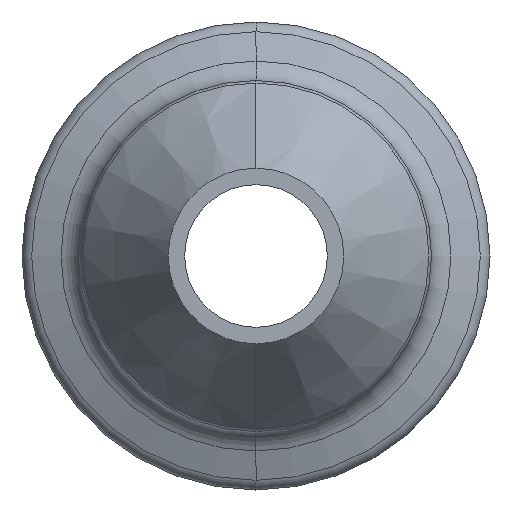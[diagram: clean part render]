
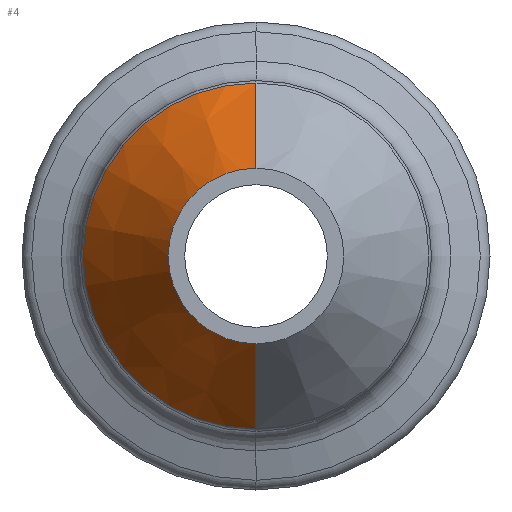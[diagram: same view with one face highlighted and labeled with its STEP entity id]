
A CAD part, left-side view. The second image highlights one B-rep face of the part: STEP entity #4.
In plain terms, the highlighted conical face has half-angle 35 degrees and reference radius 4.763 mm.
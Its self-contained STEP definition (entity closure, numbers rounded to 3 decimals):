
#4 = ADVANCED_FACE ( 'NONE', ( #589 ), #445, .T. ) ;
#7 = CARTESIAN_POINT ( 'NONE',  ( 31.998, 0., 9.383 ) ) ;
#27 = CARTESIAN_POINT ( 'NONE',  ( 31.998, 0., -9.383 ) ) ;
#29 = LINE ( 'NONE', #797, #1001 ) ;
#86 = EDGE_LOOP ( 'NONE', ( #668, #635, #646, #399 ) ) ;
#94 = DIRECTION ( 'NONE',  ( 0., 0., -1. ) ) ;
#211 = EDGE_CURVE ( 'NONE', #651, #420, #363, .T. ) ;
#260 = CIRCLE ( 'NONE', #959, 9.383 ) ;
#273 = EDGE_CURVE ( 'NONE', #365, #423, #260, .T. ) ;
#276 = DIRECTION ( 'NONE',  ( 1., 0., 0. ) ) ;
#297 = CARTESIAN_POINT ( 'NONE',  ( 25.4, 0., 4.763 ) ) ;
#313 = DIRECTION ( 'NONE',  ( 0.819, 0., 0.574 ) ) ;
#330 = CARTESIAN_POINT ( 'NONE',  ( 25.4, 0., 0. ) ) ;
#346 = DIRECTION ( 'NONE',  ( 0., 0., 1. ) ) ;
#350 = DIRECTION ( 'NONE',  ( -1., 0., 0. ) ) ;
#351 = CARTESIAN_POINT ( 'NONE',  ( 31.998, 0., 0. ) ) ;
#363 = CIRCLE ( 'NONE', #670, 4.763 ) ;
#365 = VERTEX_POINT ( 'NONE', #7 ) ;
#375 = CARTESIAN_POINT ( 'NONE',  ( 25.4, 0., 4.763 ) ) ;
#386 = VECTOR ( 'NONE', #313, 1000. ) ;
#399 = ORIENTED_EDGE ( 'NONE', *, *, #529, .F. ) ;
#420 = VERTEX_POINT ( 'NONE', #446 ) ;
#423 = VERTEX_POINT ( 'NONE', #27 ) ;
#445 = CONICAL_SURFACE ( 'NONE', #835, 4.763, 0.611 ) ;
#446 = CARTESIAN_POINT ( 'NONE',  ( 25.4, 0., -4.763 ) ) ;
#529 = EDGE_CURVE ( 'NONE', #420, #423, #29, .T. ) ;
#577 = LINE ( 'NONE', #375, #386 ) ;
#589 = FACE_OUTER_BOUND ( 'NONE', #86, .T. ) ;
#615 = DIRECTION ( 'NONE',  ( 0., 0., 1. ) ) ;
#620 = DIRECTION ( 'NONE',  ( -1., 0., 0. ) ) ;
#621 = EDGE_CURVE ( 'NONE', #651, #365, #577, .T. ) ;
#623 = CARTESIAN_POINT ( 'NONE',  ( 25.4, 0., 0. ) ) ;
#635 = ORIENTED_EDGE ( 'NONE', *, *, #621, .T. ) ;
#646 = ORIENTED_EDGE ( 'NONE', *, *, #273, .T. ) ;
#651 = VERTEX_POINT ( 'NONE', #297 ) ;
#668 = ORIENTED_EDGE ( 'NONE', *, *, #211, .F. ) ;
#670 = AXIS2_PLACEMENT_3D ( 'NONE', #623, #620, #615 ) ;
#738 = DIRECTION ( 'NONE',  ( 0.819, 0., -0.574 ) ) ;
#797 = CARTESIAN_POINT ( 'NONE',  ( 25.4, 0., -4.763 ) ) ;
#835 = AXIS2_PLACEMENT_3D ( 'NONE', #330, #276, #94 ) ;
#959 = AXIS2_PLACEMENT_3D ( 'NONE', #351, #350, #346 ) ;
#1001 = VECTOR ( 'NONE', #738, 1000. ) ;
